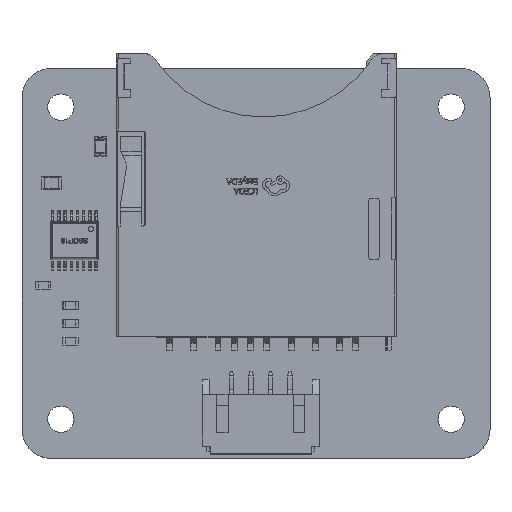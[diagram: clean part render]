
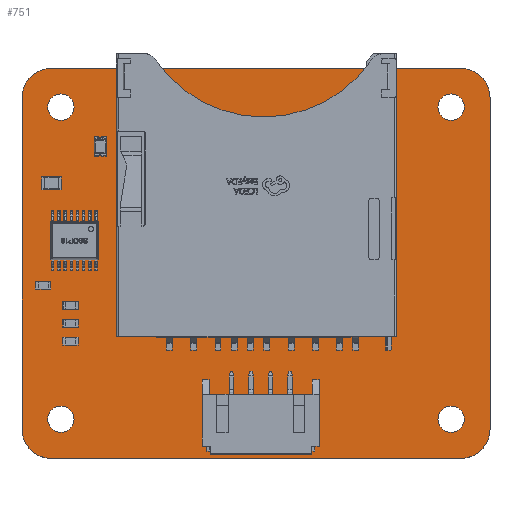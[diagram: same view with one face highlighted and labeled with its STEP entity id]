
A CAD part, top view. The second image highlights one B-rep face of the part: STEP entity #751.
In plain terms, the highlighted planar face has unit normal (0, 0, 1).
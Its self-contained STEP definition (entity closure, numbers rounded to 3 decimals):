
#66 = VERTEX_POINT('',#67);
#67 = CARTESIAN_POINT('',(45.,39.964,1.6    ));
#73 = EDGE_CURVE('',#66,#74,#76,.T.);
#74 = VERTEX_POINT('',#75);
#75 = CARTESIAN_POINT('',(47.987,36.976,1.6    ));
#76 = CIRCLE('',#77,2.987);
#77 = AXIS2_PLACEMENT_3D('',#78,#79,#80);
#78 = CARTESIAN_POINT('',(45.,36.976,1.6    ));
#79 = DIRECTION('',(0.,0.,-1.));
#80 = DIRECTION('',(0.,1.,0.));
#106 = EDGE_CURVE('',#74,#107,#109,.T.);
#107 = VERTEX_POINT('',#108);
#108 = CARTESIAN_POINT('',(47.987,2.976,1.6    ));
#109 = LINE('',#110,#111);
#110 = CARTESIAN_POINT('',(47.987,36.976,    1.6));
#111 = VECTOR('',#112,1.);
#112 = DIRECTION('',(0.,-1.,0.));
#137 = EDGE_CURVE('',#107,#138,#140,.T.);
#138 = VERTEX_POINT('',#139);
#139 = CARTESIAN_POINT('',(45.,-0.011,    1.6));
#140 = CIRCLE('',#141,2.987);
#141 = AXIS2_PLACEMENT_3D('',#142,#143,#144);
#142 = CARTESIAN_POINT('',(45.,2.976,1.6    ));
#143 = DIRECTION('',(0.,0.,-1.));
#144 = DIRECTION('',(1.,0.,0.));
#170 = EDGE_CURVE('',#138,#171,#173,.T.);
#171 = VERTEX_POINT('',#172);
#172 = CARTESIAN_POINT('',(3.,-0.011,    1.6));
#173 = LINE('',#174,#175);
#174 = CARTESIAN_POINT('',(45.,-0.011,    1.6));
#175 = VECTOR('',#176,1.);
#176 = DIRECTION('',(-1.,0.,0.));
#201 = EDGE_CURVE('',#171,#202,#204,.T.);
#202 = VERTEX_POINT('',#203);
#203 = CARTESIAN_POINT('',(0.013,2.976,    1.6));
#204 = CIRCLE('',#205,2.987);
#205 = AXIS2_PLACEMENT_3D('',#206,#207,#208);
#206 = CARTESIAN_POINT('',(3.,2.976,1.6)  );
#207 = DIRECTION('',(-0.,0.,-1.));
#208 = DIRECTION('',(0.,-1.,-0.));
#234 = EDGE_CURVE('',#202,#235,#237,.T.);
#235 = VERTEX_POINT('',#236);
#236 = CARTESIAN_POINT('',(0.013,36.976,    1.6));
#237 = LINE('',#238,#239);
#238 = CARTESIAN_POINT('',(0.013,2.976,    1.6));
#239 = VECTOR('',#240,1.);
#240 = DIRECTION('',(0.,1.,0.));
#265 = EDGE_CURVE('',#235,#266,#268,.T.);
#266 = VERTEX_POINT('',#267);
#267 = CARTESIAN_POINT('',(3.,39.964,1.6)  );
#268 = CIRCLE('',#269,2.987);
#269 = AXIS2_PLACEMENT_3D('',#270,#271,#272);
#270 = CARTESIAN_POINT('',(3.,36.976,1.6)  );
#271 = DIRECTION('',(0.,0.,-1.));
#272 = DIRECTION('',(-1.,0.,-0.));
#298 = EDGE_CURVE('',#266,#66,#299,.T.);
#299 = LINE('',#300,#301);
#300 = CARTESIAN_POINT('',(3.,39.964,1.6)  );
#301 = VECTOR('',#302,1.);
#302 = DIRECTION('',(1.,0.,0.));
#322 = VERTEX_POINT('',#323);
#323 = CARTESIAN_POINT('',(5.35,4.,1.6)  );
#329 = EDGE_CURVE('',#322,#330,#332,.T.);
#330 = VERTEX_POINT('',#331);
#331 = CARTESIAN_POINT('',(2.65,4.,1.6)  );
#332 = CIRCLE('',#333,1.35);
#333 = AXIS2_PLACEMENT_3D('',#334,#335,#336);
#334 = CARTESIAN_POINT('',(4.,4.,1.6)  );
#335 = DIRECTION('',(0.,0.,1.));
#336 = DIRECTION('',(1.,0.,-0.));
#362 = EDGE_CURVE('',#330,#322,#363,.T.);
#363 = CIRCLE('',#364,1.35);
#364 = AXIS2_PLACEMENT_3D('',#365,#366,#367);
#365 = CARTESIAN_POINT('',(4.,4.,1.6)  );
#366 = DIRECTION('',(0.,0.,1.));
#367 = DIRECTION('',(-1.,0.,0.));
#388 = VERTEX_POINT('',#389);
#389 = CARTESIAN_POINT('',(5.35,36.,1.6)  );
#395 = EDGE_CURVE('',#388,#396,#398,.T.);
#396 = VERTEX_POINT('',#397);
#397 = CARTESIAN_POINT('',(2.65,36.,1.6)  );
#398 = CIRCLE('',#399,1.35);
#399 = AXIS2_PLACEMENT_3D('',#400,#401,#402);
#400 = CARTESIAN_POINT('',(4.,36.,1.6    ));
#401 = DIRECTION('',(0.,0.,1.));
#402 = DIRECTION('',(1.,0.,-0.));
#428 = EDGE_CURVE('',#396,#388,#429,.T.);
#429 = CIRCLE('',#430,1.35);
#430 = AXIS2_PLACEMENT_3D('',#431,#432,#433);
#431 = CARTESIAN_POINT('',(4.,36.,1.6    ));
#432 = DIRECTION('',(0.,0.,1.));
#433 = DIRECTION('',(-1.,0.,0.));
#454 = VERTEX_POINT('',#455);
#455 = CARTESIAN_POINT('',(13.053,36.009,    1.6));
#461 = EDGE_CURVE('',#454,#462,#464,.T.);
#462 = VERTEX_POINT('',#463);
#463 = CARTESIAN_POINT('',(11.553,36.009,    1.6));
#464 = CIRCLE('',#465,0.75);
#465 = AXIS2_PLACEMENT_3D('',#466,#467,#468);
#466 = CARTESIAN_POINT('',(12.303,36.009,    1.6));
#467 = DIRECTION('',(0.,0.,1.));
#468 = DIRECTION('',(1.,0.,-0.));
#494 = EDGE_CURVE('',#462,#454,#495,.T.);
#495 = CIRCLE('',#496,0.75);
#496 = AXIS2_PLACEMENT_3D('',#497,#498,#499);
#497 = CARTESIAN_POINT('',(12.303,36.009,    1.6));
#498 = DIRECTION('',(0.,0.,1.));
#499 = DIRECTION('',(-1.,0.,0.));
#520 = VERTEX_POINT('',#521);
#521 = CARTESIAN_POINT('',(37.254,36.009,    1.6));
#527 = EDGE_CURVE('',#520,#528,#530,.T.);
#528 = VERTEX_POINT('',#529);
#529 = CARTESIAN_POINT('',(35.754,36.009,    1.6));
#530 = CIRCLE('',#531,0.75);
#531 = AXIS2_PLACEMENT_3D('',#532,#533,#534);
#532 = CARTESIAN_POINT('',(36.504,36.009,    1.6));
#533 = DIRECTION('',(0.,0.,1.));
#534 = DIRECTION('',(1.,0.,-0.));
#560 = EDGE_CURVE('',#528,#520,#561,.T.);
#561 = CIRCLE('',#562,0.75);
#562 = AXIS2_PLACEMENT_3D('',#563,#564,#565);
#563 = CARTESIAN_POINT('',(36.504,36.009,    1.6));
#564 = DIRECTION('',(0.,0.,1.));
#565 = DIRECTION('',(-1.,0.,0.));
#586 = VERTEX_POINT('',#587);
#587 = CARTESIAN_POINT('',(45.35,36.,    1.6));
#593 = EDGE_CURVE('',#586,#594,#596,.T.);
#594 = VERTEX_POINT('',#595);
#595 = CARTESIAN_POINT('',(42.65,36.,    1.6));
#596 = CIRCLE('',#597,1.35);
#597 = AXIS2_PLACEMENT_3D('',#598,#599,#600);
#598 = CARTESIAN_POINT('',(44.,36.,    1.6));
#599 = DIRECTION('',(0.,0.,1.));
#600 = DIRECTION('',(1.,0.,-0.));
#626 = EDGE_CURVE('',#594,#586,#627,.T.);
#627 = CIRCLE('',#628,1.35);
#628 = AXIS2_PLACEMENT_3D('',#629,#630,#631);
#629 = CARTESIAN_POINT('',(44.,36.,    1.6));
#630 = DIRECTION('',(0.,0.,1.));
#631 = DIRECTION('',(-1.,0.,0.));
#652 = VERTEX_POINT('',#653);
#653 = CARTESIAN_POINT('',(45.35,4.,1.6    ));
#659 = EDGE_CURVE('',#652,#660,#662,.T.);
#660 = VERTEX_POINT('',#661);
#661 = CARTESIAN_POINT('',(42.65,4.,1.6    ));
#662 = CIRCLE('',#663,1.35);
#663 = AXIS2_PLACEMENT_3D('',#664,#665,#666);
#664 = CARTESIAN_POINT('',(44.,4.,1.6    ));
#665 = DIRECTION('',(0.,0.,1.));
#666 = DIRECTION('',(1.,0.,-0.));
#692 = EDGE_CURVE('',#660,#652,#693,.T.);
#693 = CIRCLE('',#694,1.35);
#694 = AXIS2_PLACEMENT_3D('',#695,#696,#697);
#695 = CARTESIAN_POINT('',(44.,4.,1.6    ));
#696 = DIRECTION('',(0.,0.,1.));
#697 = DIRECTION('',(-1.,0.,0.));
#751 = ADVANCED_FACE('',(#752,#762,#766,#770,#774,#778,#782),#786,.F.);
#752 = FACE_BOUND('',#753,.F.);
#753 = EDGE_LOOP('',(#754,#755,#756,#757,#758,#759,#760,#761));
#754 = ORIENTED_EDGE('',*,*,#73,.T.);
#755 = ORIENTED_EDGE('',*,*,#106,.T.);
#756 = ORIENTED_EDGE('',*,*,#137,.T.);
#757 = ORIENTED_EDGE('',*,*,#170,.T.);
#758 = ORIENTED_EDGE('',*,*,#201,.T.);
#759 = ORIENTED_EDGE('',*,*,#234,.T.);
#760 = ORIENTED_EDGE('',*,*,#265,.T.);
#761 = ORIENTED_EDGE('',*,*,#298,.T.);
#762 = FACE_BOUND('',#763,.F.);
#763 = EDGE_LOOP('',(#764,#765));
#764 = ORIENTED_EDGE('',*,*,#329,.T.);
#765 = ORIENTED_EDGE('',*,*,#362,.T.);
#766 = FACE_BOUND('',#767,.F.);
#767 = EDGE_LOOP('',(#768,#769));
#768 = ORIENTED_EDGE('',*,*,#395,.T.);
#769 = ORIENTED_EDGE('',*,*,#428,.T.);
#770 = FACE_BOUND('',#771,.F.);
#771 = EDGE_LOOP('',(#772,#773));
#772 = ORIENTED_EDGE('',*,*,#461,.T.);
#773 = ORIENTED_EDGE('',*,*,#494,.T.);
#774 = FACE_BOUND('',#775,.F.);
#775 = EDGE_LOOP('',(#776,#777));
#776 = ORIENTED_EDGE('',*,*,#527,.T.);
#777 = ORIENTED_EDGE('',*,*,#560,.T.);
#778 = FACE_BOUND('',#779,.F.);
#779 = EDGE_LOOP('',(#780,#781));
#780 = ORIENTED_EDGE('',*,*,#593,.T.);
#781 = ORIENTED_EDGE('',*,*,#626,.T.);
#782 = FACE_BOUND('',#783,.F.);
#783 = EDGE_LOOP('',(#784,#785));
#784 = ORIENTED_EDGE('',*,*,#659,.T.);
#785 = ORIENTED_EDGE('',*,*,#692,.T.);
#786 = PLANE('',#787);
#787 = AXIS2_PLACEMENT_3D('',#788,#789,#790);
#788 = CARTESIAN_POINT('',(24.,19.976,    1.6));
#789 = DIRECTION('',(-0.,-0.,-1.));
#790 = DIRECTION('',(-1.,0.,0.));
